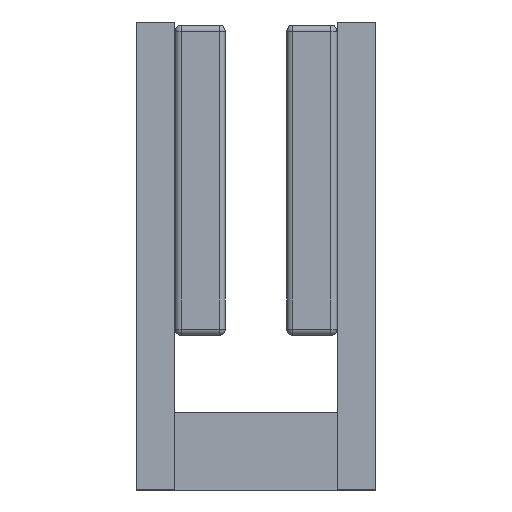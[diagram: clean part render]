
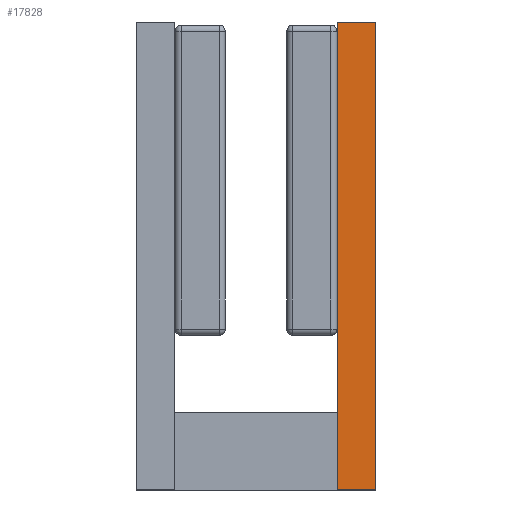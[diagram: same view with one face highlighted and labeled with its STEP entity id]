
A CAD part, left-side view. The second image highlights one B-rep face of the part: STEP entity #17828.
In plain terms, the highlighted planar face has unit normal (-1, 0, 0).
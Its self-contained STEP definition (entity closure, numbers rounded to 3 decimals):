
#619 = DIRECTION ( 'NONE',  ( 0., 1., 0. ) ) ;
#741 = ORIENTED_EDGE ( 'NONE', *, *, #5022, .T. ) ;
#1422 = VERTEX_POINT ( 'NONE', #15708 ) ;
#2374 = VERTEX_POINT ( 'NONE', #6355 ) ;
#2563 = ORIENTED_EDGE ( 'NONE', *, *, #14185, .F. ) ;
#2910 = VECTOR ( 'NONE', #16167, 1000. ) ;
#3956 = ORIENTED_EDGE ( 'NONE', *, *, #17922, .T. ) ;
#4218 = DIRECTION ( 'NONE',  ( 1., 0., 0. ) ) ;
#4786 = DIRECTION ( 'NONE',  ( 0., 0., -1. ) ) ;
#4907 = CARTESIAN_POINT ( 'NONE',  ( -64.208, 3.463, 69.9 ) ) ;
#5022 = EDGE_CURVE ( 'NONE', #2374, #9047, #10969, .T. ) ;
#5774 = CARTESIAN_POINT ( 'NONE',  ( -64.208, -2.837, 69.9 ) ) ;
#6254 = CARTESIAN_POINT ( 'NONE',  ( -64.208, -2.837, -6.3 ) ) ;
#6355 = CARTESIAN_POINT ( 'NONE',  ( -64.208, -2.837, 69.9 ) ) ;
#9047 = VERTEX_POINT ( 'NONE', #18681 ) ;
#9134 = DIRECTION ( 'NONE',  ( 0., 1., 0. ) ) ;
#9791 = AXIS2_PLACEMENT_3D ( 'NONE', #13083, #4218, #14451 ) ;
#10969 = LINE ( 'NONE', #12465, #13979 ) ;
#12063 = FACE_OUTER_BOUND ( 'NONE', #19002, .T. ) ;
#12465 = CARTESIAN_POINT ( 'NONE',  ( -64.208, -2.837, 69.9 ) ) ;
#13083 = CARTESIAN_POINT ( 'NONE',  ( -64.208, -2.837, 69.9 ) ) ;
#13979 = VECTOR ( 'NONE', #619, 1000. ) ;
#14158 = ORIENTED_EDGE ( 'NONE', *, *, #15442, .F. ) ;
#14185 = EDGE_CURVE ( 'NONE', #2374, #14486, #17071, .T. ) ;
#14451 = DIRECTION ( 'NONE',  ( 0., 1., 0. ) ) ;
#14486 = VERTEX_POINT ( 'NONE', #18383 ) ;
#15442 = EDGE_CURVE ( 'NONE', #14486, #1422, #18004, .T. ) ;
#15708 = CARTESIAN_POINT ( 'NONE',  ( -64.208, 3.463, -6.3 ) ) ;
#16167 = DIRECTION ( 'NONE',  ( 0., 0., -1. ) ) ;
#16370 = VECTOR ( 'NONE', #9134, 1000. ) ;
#17071 = LINE ( 'NONE', #5774, #2910 ) ;
#17395 = VECTOR ( 'NONE', #4786, 1000. ) ;
#17692 = PLANE ( 'NONE',  #9791 ) ;
#17828 = ADVANCED_FACE ( 'NONE', ( #12063 ), #17692, .F. ) ;
#17922 = EDGE_CURVE ( 'NONE', #9047, #1422, #18574, .T. ) ;
#18004 = LINE ( 'NONE', #6254, #16370 ) ;
#18383 = CARTESIAN_POINT ( 'NONE',  ( -64.208, -2.837, -6.3 ) ) ;
#18574 = LINE ( 'NONE', #4907, #17395 ) ;
#18681 = CARTESIAN_POINT ( 'NONE',  ( -64.208, 3.463, 69.9 ) ) ;
#19002 = EDGE_LOOP ( 'NONE', ( #3956, #14158, #2563, #741 ) ) ;
